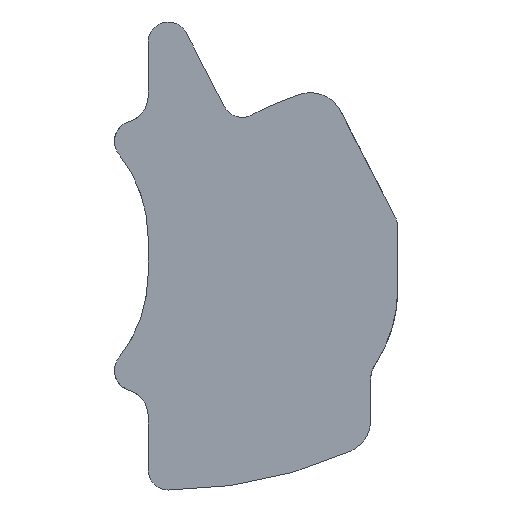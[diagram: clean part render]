
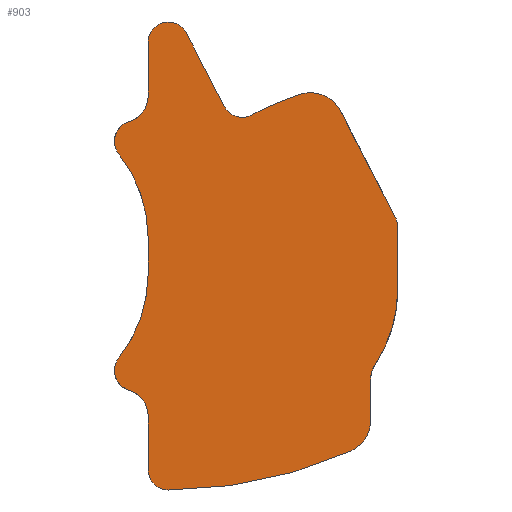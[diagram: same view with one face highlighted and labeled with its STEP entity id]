
A CAD part, left-side view. The second image highlights one B-rep face of the part: STEP entity #903.
In plain terms, the highlighted planar face has unit normal (-1, 0, 0).
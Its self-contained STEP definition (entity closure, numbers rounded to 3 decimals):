
#112=CARTESIAN_POINT('',(-6.847,4.989,10.383));
#113=VERTEX_POINT('',#112);
#114=CARTESIAN_POINT('',(-6.847,4.427,9.292));
#115=VERTEX_POINT('',#114);
#116=CARTESIAN_POINT('',(-6.847,4.989,10.383));
#117=DIRECTION('',(0.0,-0.459,-0.889));
#118=VECTOR('',#117,1.227);
#119=LINE('',#116,#118);
#120=EDGE_CURVE('',#113,#115,#119,.T.);
#152=CARTESIAN_POINT('',(-6.847,5.991,5.562));
#153=VERTEX_POINT('',#152);
#154=CARTESIAN_POINT('',(-6.847,5.842,5.088));
#155=VERTEX_POINT('',#154);
#156=CARTESIAN_POINT('',(-6.847,5.756,5.375));
#157=DIRECTION('',(-1.,0.0,0.0));
#158=DIRECTION('',(0.0,0.286,-0.958));
#159=AXIS2_PLACEMENT_3D('',#156,#157,#158);
#160=CIRCLE('',#159,0.3);
#161=EDGE_CURVE('',#153,#155,#160,.T.);
#408=CARTESIAN_POINT('',(-6.847,5.556,10.245));
#409=VERTEX_POINT('',#408);
#410=CARTESIAN_POINT('',(-6.847,5.256,10.245));
#411=DIRECTION('',(1.,0.0,0.0));
#412=DIRECTION('',(0.0,-0.889,0.459));
#413=AXIS2_PLACEMENT_3D('',#410,#411,#412);
#414=CIRCLE('',#413,0.3);
#415=EDGE_CURVE('',#409,#113,#414,.T.);
#493=CARTESIAN_POINT('',(-6.847,5.556,9.446));
#494=VERTEX_POINT('',#493);
#495=CARTESIAN_POINT('',(-6.847,5.556,10.245));
#496=DIRECTION('',(0.0,0.0,-1.0));
#497=VECTOR('',#496,0.799);
#498=LINE('',#495,#497);
#499=EDGE_CURVE('',#409,#494,#498,.T.);
#584=CARTESIAN_POINT('',(-6.847,2.256,5.248));
#585=VERTEX_POINT('',#584);
#592=CARTESIAN_POINT('',(-6.847,2.256,4.637));
#593=VERTEX_POINT('',#592);
#594=CARTESIAN_POINT('',(-6.847,2.256,5.248));
#595=DIRECTION('',(0.0,0.0,-1.0));
#596=VECTOR('',#595,0.611);
#597=LINE('',#594,#596);
#598=EDGE_CURVE('',#585,#593,#597,.T.);
#639=CARTESIAN_POINT('',(-6.847,3.306,9.47));
#640=VERTEX_POINT('',#639);
#641=CARTESIAN_POINT('',(-6.847,4.019,9.165));
#642=VERTEX_POINT('',#641);
#643=CARTESIAN_POINT('',(-6.847,1.856,5.105));
#644=DIRECTION('',(-1.,0.0,0.0));
#645=DIRECTION('',(0.0,0.47,0.883));
#646=AXIS2_PLACEMENT_3D('',#643,#644,#645);
#647=CIRCLE('',#646,4.6);
#648=EDGE_CURVE('',#640,#642,#647,.T.);
#671=CARTESIAN_POINT('',(-6.847,1.856,6.575));
#672=VERTEX_POINT('',#671);
#673=CARTESIAN_POINT('',(-6.847,1.856,7.509));
#674=VERTEX_POINT('',#673);
#675=CARTESIAN_POINT('',(-6.847,1.856,6.575));
#676=DIRECTION('',(0.0,0.0,1.0));
#677=VECTOR('',#676,0.934);
#678=LINE('',#675,#677);
#679=EDGE_CURVE('',#672,#674,#678,.T.);
#746=CARTESIAN_POINT('',(-6.847,2.552,4.18));
#747=VERTEX_POINT('',#746);
#748=CARTESIAN_POINT('',(-6.847,2.756,4.637));
#749=DIRECTION('',(-1.0,0.0,0.0));
#750=DIRECTION('',(0.0,-1.,0.));
#751=AXIS2_PLACEMENT_3D('',#748,#749,#750);
#752=CIRCLE('',#751,0.5);
#753=EDGE_CURVE('',#747,#593,#752,.T.);
#766=CARTESIAN_POINT('',(-6.847,1.646,7.075));
#767=DIRECTION('',(-1.0,0.0,0.0));
#768=DIRECTION('',(0.0,0.0,1.0));
#769=AXIS2_PLACEMENT_3D('',#766,#767,#768);
#770=PLANE('',#769);
#771=CARTESIAN_POINT('',(-6.847,5.991,8.588));
#772=VERTEX_POINT('',#771);
#773=CARTESIAN_POINT('',(-6.847,5.556,7.343));
#774=VERTEX_POINT('',#773);
#775=CARTESIAN_POINT('',(-6.847,7.556,7.343));
#776=DIRECTION('',(1.0,0.0,0.0));
#777=DIRECTION('',(0.0,-1.0,0.));
#778=AXIS2_PLACEMENT_3D('',#775,#776,#777);
#779=CIRCLE('',#778,2.);
#780=EDGE_CURVE('',#772,#774,#779,.T.);
#781=ORIENTED_EDGE('',*,*,#780,.T.);
#782=CARTESIAN_POINT('',(-6.847,5.556,6.807));
#783=VERTEX_POINT('',#782);
#784=CARTESIAN_POINT('',(-6.847,5.556,7.343));
#785=DIRECTION('',(0.0,0.0,-1.0));
#786=VECTOR('',#785,0.536);
#787=LINE('',#784,#786);
#788=EDGE_CURVE('',#774,#783,#787,.T.);
#789=ORIENTED_EDGE('',*,*,#788,.T.);
#790=CARTESIAN_POINT('',(-6.847,7.556,6.807));
#791=DIRECTION('',(1.,0.0,0.0));
#792=DIRECTION('',(0.0,-0.783,-0.623));
#793=AXIS2_PLACEMENT_3D('',#790,#791,#792);
#794=CIRCLE('',#793,2.);
#795=EDGE_CURVE('',#783,#153,#794,.T.);
#796=ORIENTED_EDGE('',*,*,#795,.T.);
#797=ORIENTED_EDGE('',*,*,#161,.T.);
#798=CARTESIAN_POINT('',(-6.847,5.556,4.704));
#799=VERTEX_POINT('',#798);
#800=CARTESIAN_POINT('',(-6.847,5.956,4.704));
#801=DIRECTION('',(1.0,0.0,0.0));
#802=DIRECTION('',(0.0,-1.,0.));
#803=AXIS2_PLACEMENT_3D('',#800,#801,#802);
#804=CIRCLE('',#803,0.4);
#805=EDGE_CURVE('',#155,#799,#804,.T.);
#806=ORIENTED_EDGE('',*,*,#805,.T.);
#807=CARTESIAN_POINT('',(-6.847,5.556,3.905));
#808=VERTEX_POINT('',#807);
#809=CARTESIAN_POINT('',(-6.847,5.556,4.704));
#810=DIRECTION('',(0.0,0.0,-1.0));
#811=VECTOR('',#810,0.799);
#812=LINE('',#809,#811);
#813=EDGE_CURVE('',#799,#808,#812,.T.);
#814=ORIENTED_EDGE('',*,*,#813,.T.);
#815=CARTESIAN_POINT('',(-6.847,5.256,3.605));
#816=VERTEX_POINT('',#815);
#817=CARTESIAN_POINT('',(-6.847,5.256,3.905));
#818=DIRECTION('',(-1.,0.0,0.0));
#819=DIRECTION('',(0.0,0.,-1.));
#820=AXIS2_PLACEMENT_3D('',#817,#818,#819);
#821=CIRCLE('',#820,0.3);
#822=EDGE_CURVE('',#808,#816,#821,.T.);
#823=ORIENTED_EDGE('',*,*,#822,.T.);
#824=CARTESIAN_POINT('',(-6.847,5.256,10.245));
#825=DIRECTION('',(1.0,0.0,0.0));
#826=DIRECTION('',(0.0,0.,-1.0));
#827=AXIS2_PLACEMENT_3D('',#824,#825,#826);
#828=CIRCLE('',#827,6.64);
#829=EDGE_CURVE('',#747,#816,#828,.T.);
#830=ORIENTED_EDGE('',*,*,#829,.F.);
#831=ORIENTED_EDGE('',*,*,#753,.T.);
#832=ORIENTED_EDGE('',*,*,#598,.F.);
#833=CARTESIAN_POINT('',(-6.847,2.189,5.469));
#834=VERTEX_POINT('',#833);
#835=CARTESIAN_POINT('',(-6.847,1.856,5.248));
#836=DIRECTION('',(-1.0,0.0,0.0));
#837=DIRECTION('',(0.0,1.0,0.));
#838=AXIS2_PLACEMENT_3D('',#835,#836,#837);
#839=CIRCLE('',#838,0.4);
#840=EDGE_CURVE('',#834,#585,#839,.T.);
#841=ORIENTED_EDGE('',*,*,#840,.F.);
#842=CARTESIAN_POINT('',(-6.847,3.856,6.575));
#843=DIRECTION('',(1.,0.0,0.0));
#844=DIRECTION('',(0.0,-0.833,-0.553));
#845=AXIS2_PLACEMENT_3D('',#842,#843,#844);
#846=CIRCLE('',#845,2.);
#847=EDGE_CURVE('',#672,#834,#846,.T.);
#848=ORIENTED_EDGE('',*,*,#847,.F.);
#849=ORIENTED_EDGE('',*,*,#679,.T.);
#850=CARTESIAN_POINT('',(-6.847,1.889,7.647));
#851=VERTEX_POINT('',#850);
#852=CARTESIAN_POINT('',(-6.847,2.156,7.509));
#853=DIRECTION('',(1.,0.0,0.0));
#854=DIRECTION('',(0.0,-1.,0.));
#855=AXIS2_PLACEMENT_3D('',#852,#853,#854);
#856=CIRCLE('',#855,0.3);
#857=EDGE_CURVE('',#851,#674,#856,.T.);
#858=ORIENTED_EDGE('',*,*,#857,.F.);
#859=CARTESIAN_POINT('',(-6.847,2.704,9.225));
#860=VERTEX_POINT('',#859);
#861=CARTESIAN_POINT('',(-6.847,1.889,7.647));
#862=DIRECTION('',(0.0,0.459,0.889));
#863=VECTOR('',#862,1.776);
#864=LINE('',#861,#863);
#865=EDGE_CURVE('',#851,#860,#864,.T.);
#866=ORIENTED_EDGE('',*,*,#865,.T.);
#867=CARTESIAN_POINT('',(-6.847,3.148,8.996));
#868=DIRECTION('',(1.0,0.0,0.0));
#869=DIRECTION('',(0.0,-0.889,0.459));
#870=AXIS2_PLACEMENT_3D('',#867,#868,#869);
#871=CIRCLE('',#870,0.5);
#872=EDGE_CURVE('',#640,#860,#871,.T.);
#873=ORIENTED_EDGE('',*,*,#872,.F.);
#874=ORIENTED_EDGE('',*,*,#648,.T.);
#875=CARTESIAN_POINT('',(-6.847,4.16,9.43));
#876=DIRECTION('',(-1.0,0.0,0.0));
#877=DIRECTION('',(0.0,-0.47,-0.883));
#878=AXIS2_PLACEMENT_3D('',#875,#876,#877);
#879=CIRCLE('',#878,0.3);
#880=EDGE_CURVE('',#115,#642,#879,.T.);
#881=ORIENTED_EDGE('',*,*,#880,.F.);
#882=ORIENTED_EDGE('',*,*,#120,.F.);
#883=ORIENTED_EDGE('',*,*,#415,.F.);
#884=ORIENTED_EDGE('',*,*,#499,.T.);
#885=CARTESIAN_POINT('',(-6.847,5.842,9.062));
#886=VERTEX_POINT('',#885);
#887=CARTESIAN_POINT('',(-6.847,5.956,9.446));
#888=DIRECTION('',(-1.0,0.0,0.0));
#889=DIRECTION('',(0.0,-1.0,0.));
#890=AXIS2_PLACEMENT_3D('',#887,#888,#889);
#891=CIRCLE('',#890,0.4);
#892=EDGE_CURVE('',#886,#494,#891,.T.);
#893=ORIENTED_EDGE('',*,*,#892,.F.);
#894=CARTESIAN_POINT('',(-6.847,5.756,8.775));
#895=DIRECTION('',(-1.0,0.0,0.0));
#896=DIRECTION('',(0.0,0.783,-0.623));
#897=AXIS2_PLACEMENT_3D('',#894,#895,#896);
#898=CIRCLE('',#897,0.3);
#899=EDGE_CURVE('',#886,#772,#898,.T.);
#900=ORIENTED_EDGE('',*,*,#899,.T.);
#901=EDGE_LOOP('',(#781,#789,#796,#797,#806,#814,#823,#830,#831,#832,#841,#848,#849,#858,#866,#873,#874,#881,#882,#883,#884,#893,#900));
#902=FACE_OUTER_BOUND('',#901,.T.);
#903=ADVANCED_FACE('',(#902),#770,.T.);
